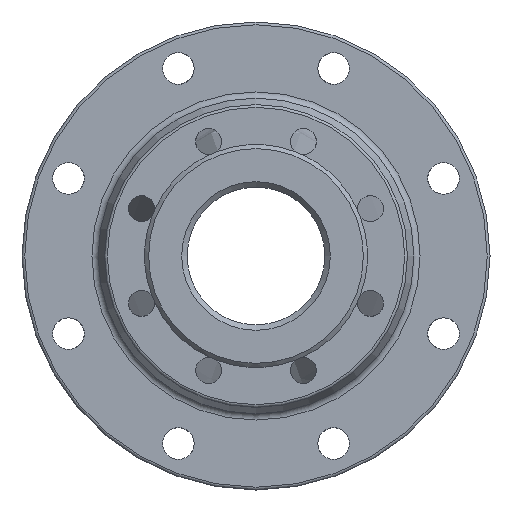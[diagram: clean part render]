
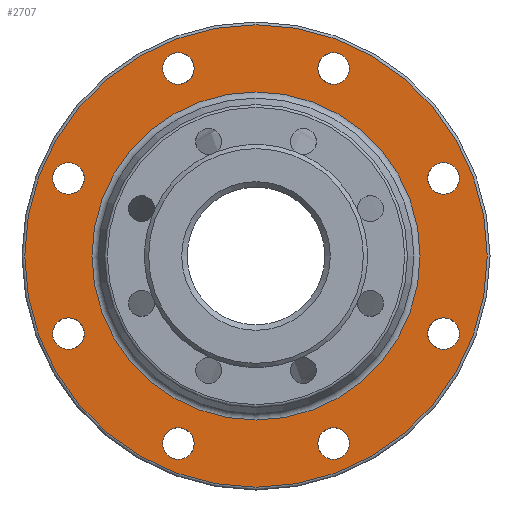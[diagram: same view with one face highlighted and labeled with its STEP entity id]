
A CAD part, left-side view. The second image highlights one B-rep face of the part: STEP entity #2707.
In plain terms, the highlighted planar face has unit normal (-1, 0, 0).
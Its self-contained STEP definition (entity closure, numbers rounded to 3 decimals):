
#30 = EDGE_CURVE ( 'NONE', #1554, #1554, #1302, .T. ) ;
#76 = DIRECTION ( 'NONE',  ( 0., 0., -1. ) ) ;
#197 = ORIENTED_EDGE ( 'NONE', *, *, #1099, .T. ) ;
#209 = ORIENTED_EDGE ( 'NONE', *, *, #412, .T. ) ;
#253 = DIRECTION ( 'NONE',  ( 0., 0., -1. ) ) ;
#261 = CARTESIAN_POINT ( 'NONE',  ( 280., -136.272, 56.446 ) ) ;
#288 = ORIENTED_EDGE ( 'NONE', *, *, #2040, .T. ) ;
#317 = CARTESIAN_POINT ( 'NONE',  ( 280., -56.446, 124.772 ) ) ;
#370 = CIRCLE ( 'NONE', #1999, 11.5 ) ;
#404 = ORIENTED_EDGE ( 'NONE', *, *, #30, .T. ) ;
#412 = EDGE_CURVE ( 'NONE', #1566, #1566, #1446, .T. ) ;
#427 = DIRECTION ( 'NONE',  ( 0., 0., -1. ) ) ;
#434 = CARTESIAN_POINT ( 'NONE',  ( 280., 136.272, -67.946 ) ) ;
#447 = CARTESIAN_POINT ( 'NONE',  ( 280., -136.272, -67.946 ) ) ;
#461 = CIRCLE ( 'NONE', #694, 119.185 ) ;
#472 = AXIS2_PLACEMENT_3D ( 'NONE', #2046, #1593, #489 ) ;
#489 = DIRECTION ( 'NONE',  ( 0., 0., -1. ) ) ;
#494 = CARTESIAN_POINT ( 'NONE',  ( 280., 136.272, 44.946 ) ) ;
#575 = FACE_BOUND ( 'NONE', #1675, .T. ) ;
#587 = CARTESIAN_POINT ( 'NONE',  ( 280., 56.446, 136.272 ) ) ;
#595 = AXIS2_PLACEMENT_3D ( 'NONE', #1548, #1720, #427 ) ;
#601 = PLANE ( 'NONE',  #2714 ) ;
#633 = EDGE_LOOP ( 'NONE', ( #2661 ) ) ;
#692 = CARTESIAN_POINT ( 'NONE',  ( 280., -136.272, 44.946 ) ) ;
#694 = AXIS2_PLACEMENT_3D ( 'NONE', #2417, #895, #1060 ) ;
#737 = CARTESIAN_POINT ( 'NONE',  ( 280., -56.446, -147.772 ) ) ;
#753 = CARTESIAN_POINT ( 'NONE',  ( 280., 56.446, -147.772 ) ) ;
#767 = VERTEX_POINT ( 'NONE', #737 ) ;
#794 = EDGE_LOOP ( 'NONE', ( #288 ) ) ;
#813 = CARTESIAN_POINT ( 'NONE',  ( 280., 116., 0. ) ) ;
#825 = DIRECTION ( 'NONE',  ( 1., 0., 0. ) ) ;
#848 = ORIENTED_EDGE ( 'NONE', *, *, #1921, .T. ) ;
#872 = DIRECTION ( 'NONE',  ( 0., 0., -1. ) ) ;
#895 = DIRECTION ( 'NONE',  ( 1., 0., 0. ) ) ;
#916 = CARTESIAN_POINT ( 'NONE',  ( 280., 136.272, 56.446 ) ) ;
#956 = AXIS2_PLACEMENT_3D ( 'NONE', #587, #2805, #1755 ) ;
#982 = DIRECTION ( 'NONE',  ( -1., 0., 0. ) ) ;
#989 = AXIS2_PLACEMENT_3D ( 'NONE', #916, #1579, #1613 ) ;
#997 = CARTESIAN_POINT ( 'NONE',  ( 280., 0., -168. ) ) ;
#1007 = ORIENTED_EDGE ( 'NONE', *, *, #2665, .T. ) ;
#1029 = AXIS2_PLACEMENT_3D ( 'NONE', #2131, #1046, #1648 ) ;
#1046 = DIRECTION ( 'NONE',  ( 1., 0., 0. ) ) ;
#1060 = DIRECTION ( 'NONE',  ( 0., 0., -1. ) ) ;
#1066 = DIRECTION ( 'NONE',  ( 0., 0., -1. ) ) ;
#1099 = EDGE_CURVE ( 'NONE', #1347, #1347, #1592, .T. ) ;
#1122 = DIRECTION ( 'NONE',  ( 0., 0., -1. ) ) ;
#1138 = AXIS2_PLACEMENT_3D ( 'NONE', #2537, #982, #76 ) ;
#1150 = EDGE_CURVE ( 'NONE', #1801, #1801, #2376, .T. ) ;
#1169 = EDGE_LOOP ( 'NONE', ( #848 ) ) ;
#1188 = FACE_BOUND ( 'NONE', #1332, .T. ) ;
#1293 = FACE_BOUND ( 'NONE', #794, .T. ) ;
#1297 = EDGE_LOOP ( 'NONE', ( #209 ) ) ;
#1302 = CIRCLE ( 'NONE', #989, 11.5 ) ;
#1312 = AXIS2_PLACEMENT_3D ( 'NONE', #261, #2214, #1122 ) ;
#1332 = EDGE_LOOP ( 'NONE', ( #404 ) ) ;
#1347 = VERTEX_POINT ( 'NONE', #434 ) ;
#1413 = VERTEX_POINT ( 'NONE', #2109 ) ;
#1446 = CIRCLE ( 'NONE', #472, 11.5 ) ;
#1458 = ORIENTED_EDGE ( 'NONE', *, *, #2741, .T. ) ;
#1539 = ORIENTED_EDGE ( 'NONE', *, *, #1150, .T. ) ;
#1548 = CARTESIAN_POINT ( 'NONE',  ( 280., 56.446, -136.272 ) ) ;
#1554 = VERTEX_POINT ( 'NONE', #494 ) ;
#1566 = VERTEX_POINT ( 'NONE', #447 ) ;
#1579 = DIRECTION ( 'NONE',  ( 1., 0., 0. ) ) ;
#1592 = CIRCLE ( 'NONE', #1869, 11.5 ) ;
#1593 = DIRECTION ( 'NONE',  ( 1., 0., 0. ) ) ;
#1613 = DIRECTION ( 'NONE',  ( 0., 0., -1. ) ) ;
#1648 = DIRECTION ( 'NONE',  ( 0., 0., -1. ) ) ;
#1667 = CIRCLE ( 'NONE', #1029, 11.5 ) ;
#1675 = EDGE_LOOP ( 'NONE', ( #197 ) ) ;
#1686 = FACE_BOUND ( 'NONE', #633, .T. ) ;
#1720 = DIRECTION ( 'NONE',  ( 1., 0., 0. ) ) ;
#1755 = DIRECTION ( 'NONE',  ( 0., 0., -1. ) ) ;
#1782 = CIRCLE ( 'NONE', #1138, 168. ) ;
#1788 = EDGE_CURVE ( 'NONE', #767, #767, #1667, .T. ) ;
#1801 = VERTEX_POINT ( 'NONE', #692 ) ;
#1807 = EDGE_LOOP ( 'NONE', ( #2446 ) ) ;
#1844 = CARTESIAN_POINT ( 'NONE',  ( 280., 56.446, 124.772 ) ) ;
#1869 = AXIS2_PLACEMENT_3D ( 'NONE', #1981, #2862, #872 ) ;
#1871 = EDGE_CURVE ( 'NONE', #1413, #1413, #461, .T. ) ;
#1921 = EDGE_CURVE ( 'NONE', #2733, #2733, #1953, .T. ) ;
#1926 = EDGE_LOOP ( 'NONE', ( #1539 ) ) ;
#1953 = CIRCLE ( 'NONE', #595, 11.5 ) ;
#1967 = FACE_BOUND ( 'NONE', #1807, .T. ) ;
#1980 = EDGE_LOOP ( 'NONE', ( #1458 ) ) ;
#1981 = CARTESIAN_POINT ( 'NONE',  ( 280., 136.272, -56.446 ) ) ;
#1999 = AXIS2_PLACEMENT_3D ( 'NONE', #2726, #2712, #253 ) ;
#2040 = EDGE_CURVE ( 'NONE', #2525, #2525, #370, .T. ) ;
#2046 = CARTESIAN_POINT ( 'NONE',  ( 280., -136.272, -56.446 ) ) ;
#2072 = FACE_BOUND ( 'NONE', #1980, .T. ) ;
#2094 = VERTEX_POINT ( 'NONE', #1844 ) ;
#2109 = CARTESIAN_POINT ( 'NONE',  ( 280., 0., -119.185 ) ) ;
#2131 = CARTESIAN_POINT ( 'NONE',  ( 280., -56.446, -136.272 ) ) ;
#2169 = FACE_BOUND ( 'NONE', #1297, .T. ) ;
#2214 = DIRECTION ( 'NONE',  ( 1., 0., 0. ) ) ;
#2298 = CIRCLE ( 'NONE', #956, 11.5 ) ;
#2363 = FACE_BOUND ( 'NONE', #1926, .T. ) ;
#2376 = CIRCLE ( 'NONE', #1312, 11.5 ) ;
#2410 = FACE_BOUND ( 'NONE', #1169, .T. ) ;
#2417 = CARTESIAN_POINT ( 'NONE',  ( 280., 0., 0. ) ) ;
#2446 = ORIENTED_EDGE ( 'NONE', *, *, #1788, .T. ) ;
#2453 = EDGE_LOOP ( 'NONE', ( #1007 ) ) ;
#2525 = VERTEX_POINT ( 'NONE', #317 ) ;
#2535 = VERTEX_POINT ( 'NONE', #997 ) ;
#2537 = CARTESIAN_POINT ( 'NONE',  ( 280., 0., 0. ) ) ;
#2568 = FACE_OUTER_BOUND ( 'NONE', #2453, .T. ) ;
#2661 = ORIENTED_EDGE ( 'NONE', *, *, #1871, .T. ) ;
#2665 = EDGE_CURVE ( 'NONE', #2535, #2535, #1782, .T. ) ;
#2707 = ADVANCED_FACE ( 'NONE', ( #1686, #2568, #575, #1188, #2072, #1293, #2363, #2169, #1967, #2410 ), #601, .F. ) ;
#2712 = DIRECTION ( 'NONE',  ( 1., 0., 0. ) ) ;
#2714 = AXIS2_PLACEMENT_3D ( 'NONE', #813, #825, #1066 ) ;
#2726 = CARTESIAN_POINT ( 'NONE',  ( 280., -56.446, 136.272 ) ) ;
#2733 = VERTEX_POINT ( 'NONE', #753 ) ;
#2741 = EDGE_CURVE ( 'NONE', #2094, #2094, #2298, .T. ) ;
#2805 = DIRECTION ( 'NONE',  ( 1., 0., 0. ) ) ;
#2862 = DIRECTION ( 'NONE',  ( 1., 0., 0. ) ) ;
